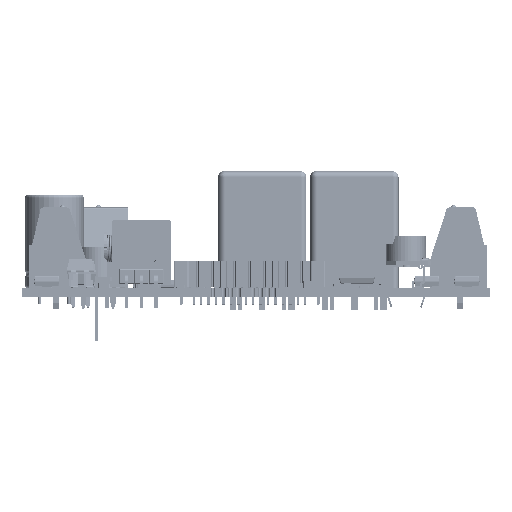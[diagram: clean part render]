
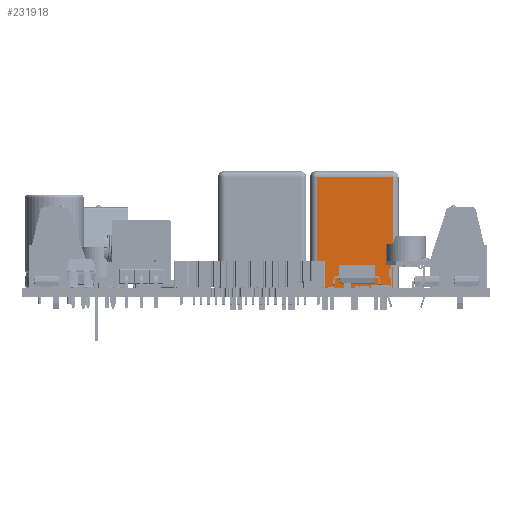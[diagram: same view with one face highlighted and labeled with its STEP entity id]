
A CAD part, front view. The second image highlights one B-rep face of the part: STEP entity #231918.
In plain terms, the highlighted planar face has unit normal (0, -1, 0).
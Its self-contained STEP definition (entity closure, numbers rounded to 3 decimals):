
#21375=FACE_OUTER_BOUND('',#34851,.T.);
#34851=EDGE_LOOP('',(#188368,#188369,#188370,#188371));
#43250=LINE('',#340754,#69204);
#56067=LINE('',#405021,#82021);
#56073=LINE('',#405046,#82027);
#56074=LINE('',#405048,#82028);
#69204=VECTOR('',#259820,10.);
#82021=VECTOR('',#292593,10.);
#82027=VECTOR('',#292631,10.);
#82028=VECTOR('',#292634,10.);
#95292=VERTEX_POINT('',#340751);
#95293=VERTEX_POINT('',#340753);
#106569=VERTEX_POINT('',#405018);
#106570=VERTEX_POINT('',#405020);
#117672=EDGE_CURVE('',#95292,#95293,#43250,.T.);
#135438=EDGE_CURVE('',#106569,#106570,#56067,.T.);
#135451=EDGE_CURVE('',#95293,#106569,#56073,.T.);
#135452=EDGE_CURVE('',#95292,#106570,#56074,.T.);
#188368=ORIENTED_EDGE('',*,*,#135438,.F.);
#188369=ORIENTED_EDGE('',*,*,#135451,.F.);
#188370=ORIENTED_EDGE('',*,*,#117672,.F.);
#188371=ORIENTED_EDGE('',*,*,#135452,.T.);
#221025=PLANE('',#248279);
#231918=ADVANCED_FACE('',(#21375),#221025,.T.);
#248279=AXIS2_PLACEMENT_3D('',#405047,#292632,#292633);
#259820=DIRECTION('',(-1.,0.,0.));
#292593=DIRECTION('',(1.,0.,0.));
#292631=DIRECTION('',(0.,0.,1.));
#292632=DIRECTION('center_axis',(0.,-1.,0.));
#292633=DIRECTION('ref_axis',(0.,0.,-1.));
#292634=DIRECTION('',(0.,0.,1.));
#340751=CARTESIAN_POINT('',(15.682,23.792,0.));
#340753=CARTESIAN_POINT('',(2.682,23.792,0.));
#340754=CARTESIAN_POINT('',(0.749,23.792,0.));
#405018=CARTESIAN_POINT('',(2.682,23.792,19.));
#405020=CARTESIAN_POINT('',(15.682,23.792,19.));
#405021=CARTESIAN_POINT('',(2.682,23.792,19.));
#405046=CARTESIAN_POINT('',(2.682,23.792,0.));
#405047=CARTESIAN_POINT('Origin',(9.182,23.792,19.001));
#405048=CARTESIAN_POINT('',(15.682,23.792,0.));
